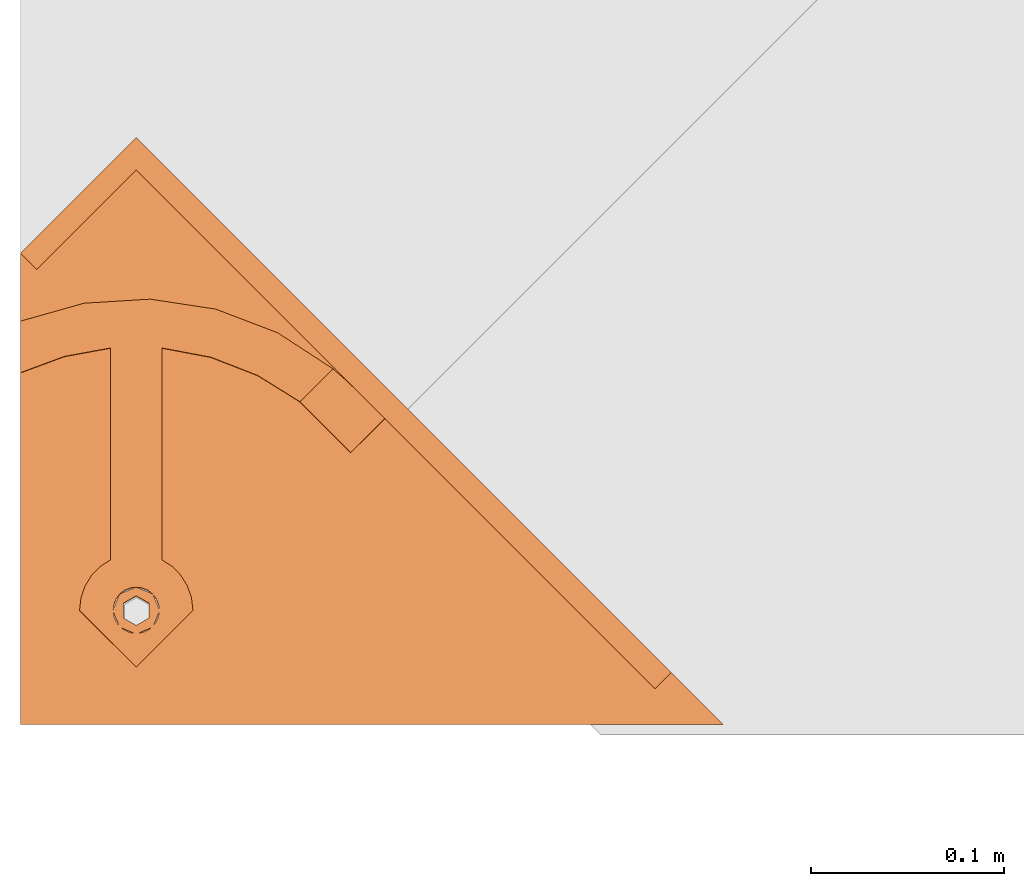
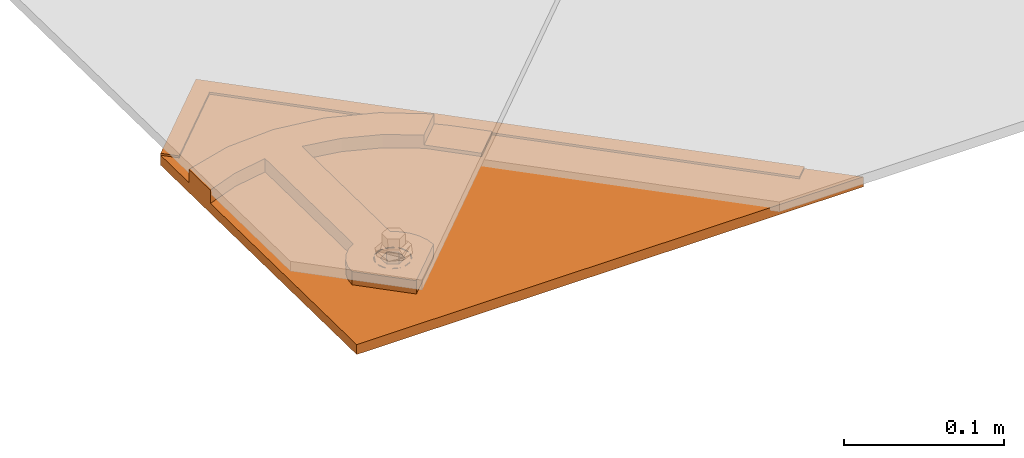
# One storey, part 116 of 151: 1 proxy.
"""IFC2X3 building model written with IfcOpenShell, lengths in millimetres."""

from ifc_helpers import new_model, entity, si_unit, converted_unit, derived_unit, direction, frame, origin, place, context, subcontext, project, spatial, faceted_brep, source, transform, mapped, material, material_list, type_object, type_shapes, element, save


model = new_model("IFC2X3")

# Units and contexts
model_context = context("Model", 3, precision=0.01, world=origin(), true_north=direction((6.12303176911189e-17, 1.0)))
body_context = subcontext(model_context, "Body", "Model", "MODEL_VIEW")
ifc_project = project(units=[si_unit("LENGTHUNIT", "METRE", prefix="MILLI"), si_unit("AREAUNIT", "SQUARE_METRE"), si_unit("VOLUMEUNIT", "CUBIC_METRE"), converted_unit("PLANEANGLEUNIT", "DEGREE", entity("IfcRatioMeasure", 0.0174532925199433), si_unit("PLANEANGLEUNIT", "RADIAN"), dimensions=[0, 0, 0, 0, 0, 0, 0]), si_unit("MASSUNIT", "GRAM", prefix="KILO"), derived_unit("MASSDENSITYUNIT", [(si_unit("MASSUNIT", "GRAM", prefix="KILO"), 1), (si_unit("LENGTHUNIT", "METRE"), -3)]), si_unit("TIMEUNIT", "SECOND"), si_unit("FREQUENCYUNIT", "HERTZ"), si_unit("THERMODYNAMICTEMPERATUREUNIT", "DEGREE_CELSIUS"), derived_unit("THERMALTRANSMITTANCEUNIT", [(si_unit("MASSUNIT", "GRAM", prefix="KILO"), 1), (si_unit("THERMODYNAMICTEMPERATUREUNIT", "KELVIN"), -1), (si_unit("TIMEUNIT", "SECOND"), -3)]), derived_unit("VOLUMETRICFLOWRATEUNIT", [(si_unit("LENGTHUNIT", "METRE"), 3), (si_unit("TIMEUNIT", "SECOND"), -1)]), si_unit("ELECTRICCURRENTUNIT", "AMPERE"), si_unit("ELECTRICVOLTAGEUNIT", "VOLT"), si_unit("POWERUNIT", "WATT"), si_unit("FORCEUNIT", "NEWTON", prefix="KILO"), si_unit("ILLUMINANCEUNIT", "LUX"), si_unit("LUMINOUSFLUXUNIT", "LUMEN"), si_unit("LUMINOUSINTENSITYUNIT", "CANDELA"), derived_unit("USERDEFINED", [(si_unit("MASSUNIT", "GRAM", prefix="KILO"), -1), (si_unit("LENGTHUNIT", "METRE"), -2), (si_unit("TIMEUNIT", "SECOND"), 3), (si_unit("LUMINOUSFLUXUNIT", "LUMEN"), 1)]), derived_unit("LINEARVELOCITYUNIT", [(si_unit("LENGTHUNIT", "METRE"), 1), (si_unit("TIMEUNIT", "SECOND"), -1)]), si_unit("PRESSUREUNIT", "PASCAL"), derived_unit("USERDEFINED", [(si_unit("LENGTHUNIT", "METRE"), -2), (si_unit("MASSUNIT", "GRAM", prefix="KILO"), 1), (si_unit("TIMEUNIT", "SECOND"), -2)])], contexts=[model_context])

# Site, building, storey
site_placement = place(None, origin())
site = spatial("IfcSite", under=ifc_project, at=site_placement, Name="Default", CompositionType="ELEMENT")
building_placement = place(site_placement, origin())
building = spatial("IfcBuilding", under=site, at=building_placement, CompositionType="ELEMENT")
storey_placement = place(building_placement, origin())
storey = spatial("IfcBuildingStorey", under=building, at=storey_placement, Name="Level 1", CompositionType="ELEMENT", Elevation=0.0)

# Proxy
ifc_material_1 = material(Name="Rubber - Sunstyle - Black")
ifc_material_2 = material(Name="Glass - Sunstyle - Tainted Black")
ifc_material_list_1 = material_list([ifc_material_1, ifc_material_2])
ifc_material_list_2 = material_list([ifc_material_1, ifc_material_2])
building_element_proxy_type = type_object("IfcBuildingElementProxyType", Name="Corner Bottom Small Left - Black", PredefinedType="NOTDEFINED", material=ifc_material_list_2)
shared_shape = source(origin(), body_context, "Body", "Brep", [
    faceted_brep([(330.847757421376, 18.4932261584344, 12.2894055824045), (339.332443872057, 26.9779126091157, 12.1473081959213), (339.332443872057, 27.0030303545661, 13.6470978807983), (330.847757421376, 18.5183439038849, 13.7891952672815), (61.6993486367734, 287.566165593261, 7.7831033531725), (10.0799586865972, 235.961249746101, 8.64735729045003), (1.59527223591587, 244.445936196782, 8.50525990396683), (61.6993486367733, 304.533159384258, 7.49894842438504), (61.6993486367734, 304.558277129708, 8.9987381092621), (1.59527223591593, 244.471053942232, 10.0050495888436), (10.0799586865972, 235.986367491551, 10.147146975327), (61.6993486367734, 287.591283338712, 9.2828930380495)], [[[0, 1, 2, 3]], [[1, 0, 4, 5, 6, 7]], [[2, 1, 7, 8]], [[3, 2, 8, 9, 10, 11]], [[0, 3, 11, 4]], [[5, 10, 9, 6]], [[8, 7, 6, 9]], [[4, 11, 10, 5]]]),
    faceted_brep([(61.6990261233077, 46.946835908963, 21.8142807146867), (61.6990261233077, 51.4462045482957, 21.7389274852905), (53.0953219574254, 50.5101071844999, 21.7546047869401), (70.3027302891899, 50.5101071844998, 21.7546047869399), (68.3392547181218, 55.2794047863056, 21.6747309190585), (73.8665012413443, 59.1126050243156, 21.6105343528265), (68.3392547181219, 62.9458052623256, 21.5463377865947), (70.30273028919, 67.7151028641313, 21.4664639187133), (61.6990261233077, 66.7790055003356, 21.4821412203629), (61.6990261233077, 71.2783741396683, 21.4067879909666), (53.0953219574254, 67.7151028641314, 21.4664639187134), (55.0587975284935, 62.9458052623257, 21.5463377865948), (49.5315510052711, 59.1126050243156, 21.6105343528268), (55.0587975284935, 55.2794047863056, 21.6747309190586), (55.0587978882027, 62.6778824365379, 5.54858115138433), (61.6990261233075, 66.5110824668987, 5.48438458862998), (55.0587978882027, 55.0114823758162, 5.6769742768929), (61.6990261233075, 51.1782823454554, 5.74117083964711), (68.3392543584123, 55.0114823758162, 5.67697427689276), (68.3392543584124, 62.6778824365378, 5.5485811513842), (53.0953219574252, 50.2421845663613, 5.75684814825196), (61.6990261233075, 46.6789132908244, 5.81652407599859), (49.5315510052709, 58.844682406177, 5.61277771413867), (53.0953219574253, 67.4471802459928, 5.4687072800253), (61.6990261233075, 71.0104515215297, 5.4090313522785), (70.3027302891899, 67.4471802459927, 5.46870728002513), (73.8665012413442, 58.844682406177, 5.61277771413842), (70.3027302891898, 50.2421845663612, 5.75684814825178)], [[[0, 1, 2]], [[1, 0, 3]], [[3, 4, 1]], [[4, 3, 5]], [[6, 4, 5]], [[5, 7, 6]], [[7, 8, 6]], [[8, 7, 9]], [[8, 9, 10]], [[10, 11, 8]], [[12, 11, 10]], [[2, 13, 12]], [[12, 13, 11]], [[13, 2, 1]], [[8, 11, 14, 15]], [[11, 13, 16, 14]], [[13, 1, 17, 16]], [[1, 4, 18, 17]], [[4, 6, 19, 18]], [[6, 8, 15, 19]], [[20, 17, 21]], [[17, 20, 16]], [[22, 16, 20]], [[14, 16, 22]], [[23, 14, 22]], [[15, 14, 23]], [[23, 24, 15]], [[24, 25, 15]], [[19, 15, 25]], [[19, 25, 26]], [[26, 18, 19]], [[26, 27, 18]], [[17, 18, 27]], [[27, 21, 17]], [[24, 23, 10, 9]], [[10, 23, 22, 12]], [[20, 21, 0, 2]], [[20, 2, 12, 22]], [[21, 27, 3, 0]], [[3, 27, 26, 5]], [[25, 24, 9, 7]], [[25, 7, 5, 26]]]),
    faceted_brep([(1.59527223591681, 244.445936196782, 8.50525990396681), (58.5931975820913, 70.7020897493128, 11.4150370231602), (61.6990261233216, 71.1109225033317, 11.4081900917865), (55.6990261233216, 69.5034527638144, 11.4351112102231), (64.8048546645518, 70.7020897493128, 11.4150370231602), (53.213744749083, 67.596696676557, 11.4670446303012), (51.3067212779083, 65.1117637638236, 11.5086610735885), (1.5952722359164, 0.125588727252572, 12.5970178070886), (67.6990261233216, 69.5034527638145, 11.4351112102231), (61.6993486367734, 304.533159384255, 7.49894842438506), (50.1079162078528, 62.2179980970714, 11.5571244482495), (49.6990261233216, 59.1126050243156, 11.6091320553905), (50.1079162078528, 56.0072119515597, 11.6611396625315), (51.3067212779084, 53.1134462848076, 11.7096030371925), (53.2137447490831, 50.6285133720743, 11.7512194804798), (55.6990261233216, 48.7217572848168, 11.7831529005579), (58.5931975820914, 47.5231202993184, 11.8032270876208), (61.6990261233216, 47.1142875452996, 11.8100740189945), (64.8048546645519, 47.5231202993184, 11.8032270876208), (67.6990261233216, 48.7217572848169, 11.7831529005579), (366.192299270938, 0.125588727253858, 12.5970178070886), (72.0913309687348, 65.1117637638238, 11.5086610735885), (73.2901360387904, 62.2179980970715, 11.5571244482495), (73.6990261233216, 59.1126050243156, 11.6091320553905), (70.1843074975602, 50.6285133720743, 11.7512194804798), (72.0913309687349, 53.1134462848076, 11.7096030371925), (73.2901360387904, 56.0072119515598, 11.6611396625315), (70.1843074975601, 67.596696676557, 11.4670446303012), (1.5952722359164, 0.0, 5.09806938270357), (55.6990261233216, 48.5961685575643, 4.2842044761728), (58.5931975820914, 47.3975315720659, 4.30427866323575), (53.2137447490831, 50.5029246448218, 4.25227105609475), (61.6990261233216, 46.9886988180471, 4.3111255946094), (51.3067212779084, 52.9878575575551, 4.21065461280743), (50.1079162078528, 55.8816232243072, 4.16219123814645), (49.6990261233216, 58.9870162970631, 4.11018363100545), (50.1079162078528, 62.0924093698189, 4.05817602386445), (64.8048546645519, 47.3975315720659, 4.30427866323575), (67.6990261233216, 48.5961685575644, 4.2842044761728), (366.192299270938, 0.0, 5.09806938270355), (51.3067212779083, 64.9861750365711, 4.00971264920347), (1.59527223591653, 244.320347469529, 1.00631147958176), (53.213744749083, 67.4711079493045, 3.96809620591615), (55.6990261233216, 69.3778640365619, 3.93616278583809), (58.5931975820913, 70.5765010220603, 3.91608859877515), (61.6990261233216, 70.9853337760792, 3.90924166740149), (64.8048546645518, 70.5765010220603, 3.91608859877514), (67.6990261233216, 69.377864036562, 3.93616278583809), (61.6993486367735, 304.407570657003, 0.0), (72.0913309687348, 64.9861750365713, 4.00971264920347), (70.1843074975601, 67.4711079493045, 3.96809620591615), (70.1843074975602, 50.5029246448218, 4.25227105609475), (72.0913309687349, 52.9878575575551, 4.21065461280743), (73.2901360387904, 55.8816232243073, 4.16219123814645), (73.6990261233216, 58.9870162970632, 4.11018363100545), (73.2901360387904, 62.092409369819, 4.05817602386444)], [[[0, 1, 2]], [[1, 0, 3]], [[0, 2, 4]], [[5, 3, 0]], [[6, 5, 0]], [[6, 0, 7]], [[8, 0, 4]], [[0, 8, 9]], [[7, 10, 6]], [[11, 10, 7]], [[12, 11, 7]], [[13, 12, 7]], [[7, 14, 13]], [[14, 7, 15]], [[16, 15, 7]], [[7, 17, 16]], [[17, 7, 18]], [[19, 18, 7]], [[20, 19, 7]], [[9, 21, 20]], [[20, 21, 22]], [[20, 22, 23]], [[19, 20, 24]], [[25, 24, 20]], [[26, 25, 20]], [[26, 20, 23]], [[9, 8, 27]], [[27, 21, 9]], [[28, 29, 30]], [[29, 28, 31]], [[28, 30, 32]], [[33, 31, 28]], [[34, 33, 28]], [[35, 34, 28]], [[28, 36, 35]], [[37, 28, 32]], [[37, 38, 28]], [[28, 38, 39]], [[36, 28, 40]], [[28, 41, 40]], [[42, 40, 41]], [[41, 43, 42]], [[43, 41, 44]], [[45, 44, 41]], [[41, 46, 45]], [[41, 47, 46]], [[47, 41, 48]], [[49, 48, 39]], [[50, 47, 48]], [[48, 49, 50]], [[38, 51, 39]], [[51, 52, 39]], [[52, 53, 39]], [[39, 53, 54]], [[55, 39, 54]], [[49, 39, 55]], [[11, 35, 36, 10]], [[10, 36, 40, 6]], [[3, 5, 42, 43]], [[40, 42, 5, 6]], [[1, 3, 43, 44]], [[45, 2, 1, 44]], [[4, 46, 47, 8]], [[8, 47, 50, 27]], [[22, 21, 49, 55]], [[50, 49, 21, 27]], [[23, 22, 55, 54]], [[4, 2, 45, 46]], [[23, 54, 53, 26]], [[26, 53, 52, 25]], [[19, 24, 51, 38]], [[52, 51, 24, 25]], [[18, 19, 38, 37]], [[32, 17, 18, 37]], [[16, 30, 29, 15]], [[15, 29, 31, 14]], [[12, 13, 33, 34]], [[31, 33, 13, 14]], [[11, 12, 34, 35]], [[16, 17, 32, 30]], [[0, 9, 48, 41]], [[7, 0, 41, 28]], [[20, 7, 28, 39]], [[9, 20, 39, 48]]]),
    faceted_brep([(1.59527223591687, 209.239382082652, 19.0962843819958), (1.59527223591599, 182.513149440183, 19.5438822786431), (24.4390403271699, 190.969673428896, 19.4022565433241), (34.6448586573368, 218.551914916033, 18.9403226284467), (48.3990261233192, 195.36105911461, 19.3287117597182), (68.9162632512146, 220.671424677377, 18.9048261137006), (74.999026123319, 195.361059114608, 19.3287117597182), (74.99902612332, 85.4841763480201, 21.1688761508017), (48.3990261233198, 85.4841763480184, 21.1688761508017), (61.6990261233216, 71.2783741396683, 21.4067879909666), (58.5931975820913, 70.8695413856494, 21.4136349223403), (55.6990261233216, 69.670904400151, 21.4337091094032), (42.9949199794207, 81.9461281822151, 21.2281296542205), (53.213744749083, 67.7641483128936, 21.4656425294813), (38.4943757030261, 77.3131226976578, 21.3057209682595), (51.3067212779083, 65.2792154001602, 21.5072589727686), (35.1148065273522, 71.8089720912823, 21.397901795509), (50.1079162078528, 62.385449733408, 21.5557223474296), (33.0194733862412, 65.6995720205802, 21.5002190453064), (49.6990261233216, 59.2800566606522, 21.6077299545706), (32.3095980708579, 59.2800566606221, 21.6077299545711), (50.1079162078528, 56.1746635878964, 21.6597375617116), (51.3067212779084, 53.2808979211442, 21.7082009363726), (53.2137447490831, 50.7959650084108, 21.7498173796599), (61.6990261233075, 29.8947493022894, 22.0998607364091), (55.6990261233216, 48.8892089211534, 21.7817507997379), (58.5931975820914, 47.690571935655, 21.8018249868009), (61.6990261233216, 47.2817391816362, 21.8086719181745), (64.8048546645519, 47.690571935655, 21.8018249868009), (67.6990261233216, 48.8892089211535, 21.7817507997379), (70.1843074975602, 50.7959650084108, 21.7498173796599), (91.0884541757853, 59.2800566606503, 21.6077299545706), (72.0913309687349, 53.2808979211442, 21.7082009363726), (73.2901360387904, 56.1746635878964, 21.6597375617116), (73.6990261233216, 59.2800566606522, 21.6077299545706), (90.3785788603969, 65.699572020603, 21.500219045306), (73.2901360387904, 62.3854497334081, 21.5557223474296), (88.2832457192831, 71.8089720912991, 21.3979017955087), (72.0913309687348, 65.2792154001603, 21.5072589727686), (84.9036765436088, 77.3131226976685, 21.3057209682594), (70.1843074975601, 67.7641483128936, 21.4656425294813), (80.4031322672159, 81.9461281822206, 21.2281296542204), (67.6990261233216, 69.6709044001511, 21.4337091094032), (64.8048546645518, 70.8695413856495, 21.4136349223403), (102.861723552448, 215.50219023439, 18.9913979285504), (100.468768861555, 190.546178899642, 19.4093490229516), (134.948197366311, 203.277664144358, 19.1961283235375), (124.623359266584, 181.142545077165, 19.5668364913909), (146.643422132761, 167.469148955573, 19.7958318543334), (163.72659789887, 184.549929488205, 19.5097712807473), (51.3067212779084, 53.1134462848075, 11.7096030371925), (32.3095980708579, 59.1126050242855, 11.609132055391), (50.1079162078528, 56.0072119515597, 11.6611396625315), (53.2137447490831, 50.6285133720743, 11.7512194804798), (61.6990261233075, 29.7272976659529, 12.1012628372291), (55.6990261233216, 48.7217572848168, 11.7831529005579), (58.5931975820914, 47.5231202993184, 11.8032270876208), (61.6990261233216, 47.1142875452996, 11.8100740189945), (64.8048546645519, 47.5231202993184, 11.8032270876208), (67.6990261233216, 48.7217572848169, 11.7831529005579), (70.1843074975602, 50.6285133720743, 11.7512194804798), (91.0884541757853, 59.1126050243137, 11.6091320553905), (72.0913309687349, 53.1134462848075, 11.7096030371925), (73.2901360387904, 56.0072119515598, 11.6611396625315), (73.6990261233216, 59.1126050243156, 11.6091320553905), (90.3785788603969, 65.5321203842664, 11.5016211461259), (73.2901360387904, 62.2179980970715, 11.5571244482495), (88.2832457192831, 71.6415204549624, 11.3993038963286), (72.0913309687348, 65.1117637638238, 11.5086610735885), (84.9036765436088, 77.1456710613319, 11.3071230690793), (70.1843074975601, 67.596696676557, 11.4670446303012), (80.4031322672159, 81.778676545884, 11.2295317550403), (67.6990261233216, 69.5034527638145, 11.4351112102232), (74.99902612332, 85.3167247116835, 11.1702782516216), (64.8048546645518, 70.7020897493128, 11.4150370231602), (61.6990261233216, 71.1109225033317, 11.4081900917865), (48.39902612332, 85.3167247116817, 11.1702782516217), (58.5931975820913, 70.7020897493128, 11.4150370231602), (55.6990261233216, 69.5034527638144, 11.4351112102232), (42.9949199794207, 81.7786765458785, 11.2295317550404), (53.213744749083, 67.596696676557, 11.4670446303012), (38.4943757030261, 77.1456710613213, 11.3071230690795), (51.3067212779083, 65.1117637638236, 11.5086610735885), (35.1148065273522, 71.6415204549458, 11.3993038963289), (50.1079162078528, 62.2179980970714, 11.5571244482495), (33.0194733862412, 65.5321203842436, 11.5016211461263), (49.6990261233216, 59.1126050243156, 11.6091320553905), (48.3990261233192, 195.193607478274, 9.33011386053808), (74.99902612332, 195.193607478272, 9.33011386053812), (68.9162632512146, 220.50397304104, 8.90622821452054), (34.6448586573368, 218.384463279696, 8.94172472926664), (24.4390403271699, 190.802221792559, 9.40365864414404), (1.59527223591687, 209.071930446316, 9.09768648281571), (1.59527223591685, 182.345697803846, 9.545284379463), (102.861723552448, 215.334738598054, 8.99280002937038), (100.468768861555, 190.378727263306, 9.4107511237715), (134.948197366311, 203.110212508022, 9.19753042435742), (124.623359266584, 180.975093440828, 9.5682385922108), (146.643422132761, 167.301697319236, 9.79723395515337), (163.72659789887, 184.382477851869, 9.51117338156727), (169.978999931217, 179.020830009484, 9.60096764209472), (175.949995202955, 173.347554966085, 9.69598088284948), (172.968069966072, 140.980740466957, 10.2380444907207), (190.645739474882, 158.655931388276, 9.94202902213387), (190.645739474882, 158.69779429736, 12.4416784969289), (172.968069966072, 141.022603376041, 12.7376939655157), (163.72659789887, 184.424340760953, 12.0108228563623), (146.643422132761, 167.34356022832, 12.2968834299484), (175.949995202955, 173.38941787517, 12.1956303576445), (169.978999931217, 179.062692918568, 12.1006171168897)], [[[0, 1, 2]], [[0, 2, 3]], [[2, 4, 3]], [[3, 4, 5]], [[5, 4, 6]], [[7, 6, 4]], [[7, 4, 8]], [[9, 7, 8]], [[9, 8, 10]], [[10, 8, 11]], [[12, 11, 8]], [[11, 12, 13]], [[14, 13, 12]], [[13, 14, 15]], [[15, 14, 16]], [[17, 15, 16]], [[18, 17, 16]], [[18, 19, 17]], [[19, 18, 20]], [[20, 21, 19]], [[20, 22, 21]], [[22, 20, 23]], [[23, 20, 24]], [[24, 25, 23]], [[26, 25, 24]], [[24, 27, 26]], [[28, 27, 24]], [[28, 24, 29]], [[30, 29, 24]], [[30, 24, 31]], [[31, 32, 30]], [[33, 32, 31]], [[31, 34, 33]], [[35, 34, 31]], [[34, 35, 36]], [[36, 35, 37]], [[36, 37, 38]], [[38, 37, 39]], [[39, 40, 38]], [[39, 41, 40]], [[7, 42, 41]], [[40, 41, 42]], [[42, 7, 43]], [[43, 7, 9]], [[44, 5, 6]], [[44, 6, 45]], [[45, 46, 44]], [[46, 45, 47]], [[47, 48, 46]], [[49, 46, 48]], [[50, 51, 52]], [[51, 50, 53]], [[51, 53, 54]], [[54, 53, 55]], [[55, 56, 54]], [[57, 54, 56]], [[54, 57, 58]], [[54, 58, 59]], [[59, 60, 54]], [[54, 60, 61]], [[61, 60, 62]], [[62, 63, 61]], [[64, 61, 63]], [[61, 64, 65]], [[66, 65, 64]], [[67, 65, 66]], [[67, 66, 68]], [[67, 68, 69]], [[69, 68, 70]], [[71, 69, 70]], [[70, 72, 71]], [[73, 71, 72]], [[74, 73, 72]], [[73, 74, 75]], [[76, 73, 75]], [[75, 77, 76]], [[76, 77, 78]], [[79, 76, 78]], [[78, 80, 79]], [[81, 79, 80]], [[81, 80, 82]], [[82, 83, 81]], [[82, 84, 83]], [[84, 85, 83]], [[86, 85, 84]], [[52, 51, 86]], [[85, 86, 51]], [[87, 73, 76]], [[88, 73, 87]], [[88, 87, 89]], [[90, 89, 87]], [[87, 91, 90]], [[91, 92, 90]], [[93, 92, 91]], [[88, 89, 94]], [[88, 94, 95]], [[96, 95, 94]], [[96, 97, 95]], [[97, 96, 98]], [[96, 99, 98]], [[98, 99, 100]], [[98, 100, 101]], [[101, 102, 98]], [[102, 101, 103]], [[8, 4, 87, 76]], [[12, 8, 76, 79]], [[14, 12, 79, 81]], [[81, 83, 16, 14]], [[18, 16, 83, 85]], [[20, 18, 85, 51]], [[24, 20, 51, 54]], [[31, 24, 54, 61]], [[104, 105, 102, 103]], [[35, 31, 61, 65]], [[37, 35, 65, 67]], [[67, 69, 39, 37]], [[41, 39, 69, 71]], [[7, 41, 71, 73]], [[6, 7, 73, 88]], [[106, 99, 96, 46, 49]], [[46, 96, 94, 44]], [[5, 44, 94, 89]], [[3, 5, 89, 90]], [[92, 0, 3, 90]], [[19, 86, 84, 17]], [[17, 84, 82, 15]], [[11, 13, 80, 78]], [[82, 80, 13, 15]], [[10, 11, 78, 77]], [[75, 9, 10, 77]], [[43, 74, 72, 42]], [[42, 72, 70, 40]], [[36, 38, 68, 66]], [[70, 68, 38, 40]], [[34, 36, 66, 64]], [[43, 9, 75, 74]], [[34, 64, 63, 33]], [[33, 63, 62, 32]], [[29, 30, 60, 59]], [[62, 60, 30, 32]], [[28, 29, 59, 58]], [[57, 27, 28, 58]], [[26, 56, 55, 25]], [[25, 55, 53, 23]], [[21, 22, 50, 52]], [[53, 50, 22, 23]], [[19, 21, 52, 86]], [[26, 27, 57, 56]], [[49, 48, 107, 106]], [[93, 91, 2, 1]], [[87, 4, 2, 91]], [[88, 95, 45, 6]], [[95, 97, 47, 45]], [[107, 48, 47, 97, 98]], [[1, 0, 92, 93]], [[104, 108, 109, 106, 107, 105]], [[108, 104, 103, 101]], [[108, 101, 100, 109]], [[100, 99, 106, 109]], [[105, 107, 98, 102]]]),
])
type_shapes(building_element_proxy_type, [shared_shape])
proxy_placement = place(storey_placement, frame((-19048.7183786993, 14526.940789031, -1.49476068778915)))
element("IfcBuildingElementProxy", 1, at=proxy_placement, inside=storey, type_object=building_element_proxy_type, material=ifc_material_list_1, Name="Roofing_Panels_SunStyle_Tile_Corner-Bottom-Small-Left:Corner Bottom Small Left - Black", ObjectType="Roofing_Panels_SunStyle_Tile_Corner-Bottom-Small-Left:Corner Bottom Small Left - Black", context=body_context, shape_type="MappedRepresentation", body=[
    mapped(shared_shape, transform((0.0, 0.0, 0.0), scale=1.0)),
])

save(model, "model.ifc")
